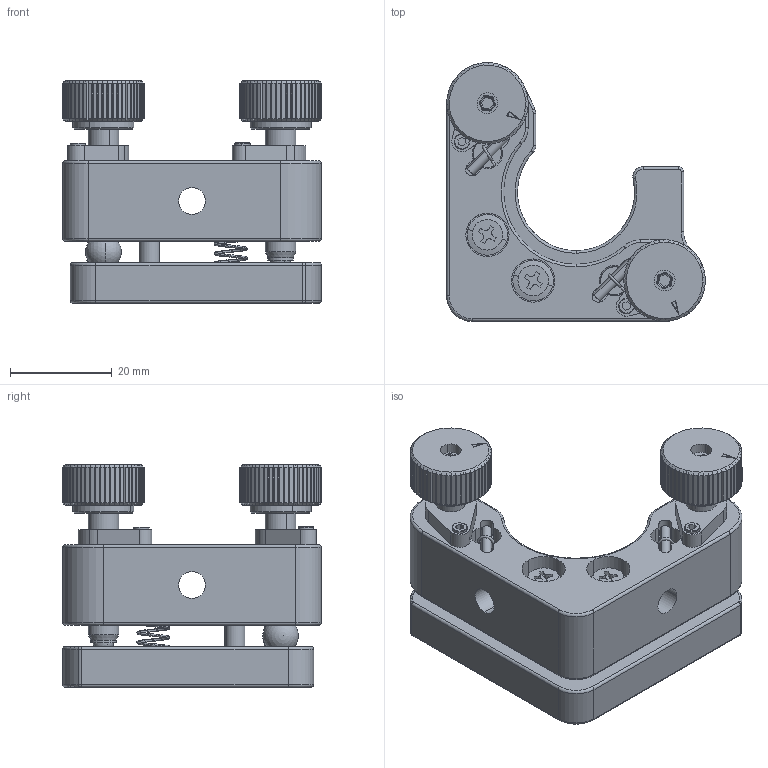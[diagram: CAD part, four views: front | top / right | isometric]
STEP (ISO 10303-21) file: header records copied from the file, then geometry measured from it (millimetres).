
FILE_DESCRIPTION (( 'STEP AP203' ), '1' );
FILE_NAME ('M-TNC-1R-HOC.STEP', '2020-08-04T08:38:26', ( '匠星' ), ( '' ), 'SwSTEP 2.0', 'SolidWorks 2019', '' );
FILE_SCHEMA (( 'CONFIG_CONTROL_DESIGN' ));
Length unit declared in the file: millimetre
Products named in the file (1): M-TNC-1R-HOC
Bounding box: 50.8 x 50.8 x 43.74 mm (x, y, z)
Surface area: 17023 mm2 (no closed solid volume)
Topology: 0 solids, 22 shells, 1025 faces, 2600 edges, 1641 vertices
Faces by surface type: cylinder 428, plane 415, torus 84, cone 68, sphere 24, bspline 6
Entity records: 35824 total; most frequent: CARTESIAN_POINT 11519, ORIENTED_EDGE 5114, DIRECTION 5083, EDGE_CURVE 2560, AXIS2_PLACEMENT_3D 2017, VERTEX_POINT 1633, EDGE_LOOP 1111, LINE 1049
